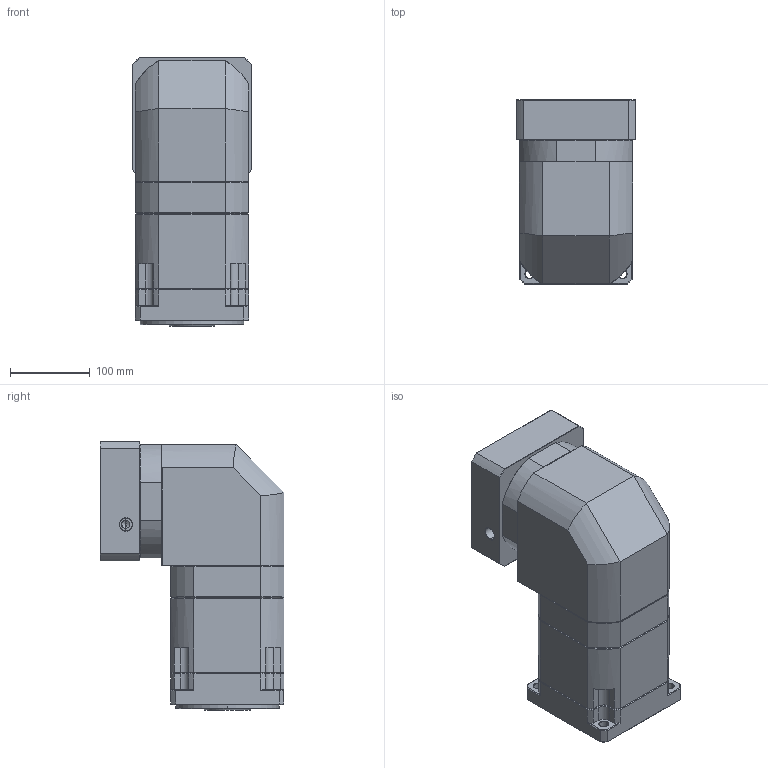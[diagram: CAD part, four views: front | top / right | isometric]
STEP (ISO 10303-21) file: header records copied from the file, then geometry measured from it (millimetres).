
FILE_DESCRIPTION (( 'STEP AP214' ), '1' );
FILE_NAME ('ZBR142A-K35-L3-P2-32-130-165-M10.step', '2023-09-02T07:17:47', ( '' ), ( '' ), 'SwSTEP 2.0', 'SolidWorks 2016', '' );
FILE_SCHEMA (( 'AUTOMOTIVE_DESIGN' ));
Length unit declared in the file: millimetre
Products named in the file (1): ZBR142A-K35-L3-P2-32-130-165-M10
Bounding box: 150 x 231 x 337.7 mm (x, y, z)
Volume: 6851135 mm3; surface area: 434748.8 mm2
Topology: 6 solids, 6 shells, 2277 faces, 5941 edges, 3770 vertices
Faces by surface type: plane 1125, bspline 394, cylinder 391, cone 334, torus 33
Entity records: 124509 total; most frequent: CARTESIAN_POINT 46821, ORIENTED_EDGE 11826, DIRECTION 9388, EDGE_CURVE 5913, LINE 3864, VECTOR 3864, VERTEX_POINT 3770, AXIS2_PLACEMENT_3D 2762
